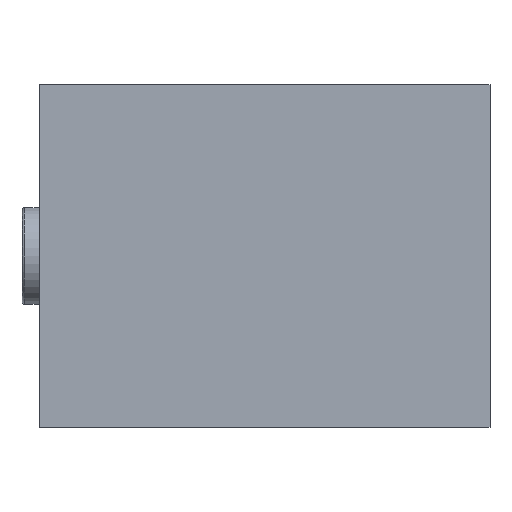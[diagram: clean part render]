
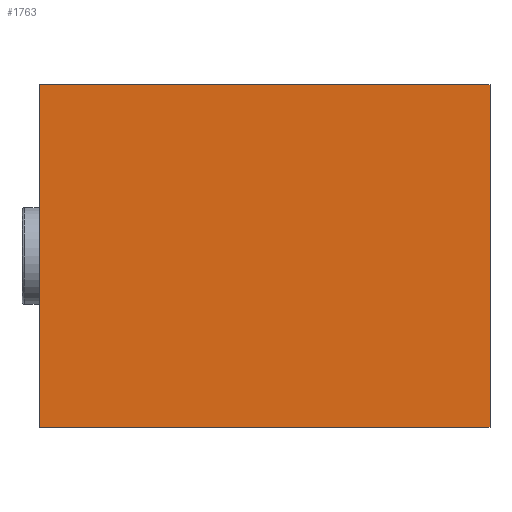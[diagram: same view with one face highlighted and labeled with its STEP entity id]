
A CAD part, front view. The second image highlights one B-rep face of the part: STEP entity #1763.
In plain terms, the highlighted planar face has unit normal (0, -1, 0).
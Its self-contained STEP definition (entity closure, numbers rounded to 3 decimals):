
#12 = CARTESIAN_POINT ( 'NONE',  ( -62.5, 0., 47.5 ) ) ;
#28 = VECTOR ( 'NONE', #1061, 1000. ) ;
#275 = EDGE_CURVE ( 'NONE', #356, #1816, #2254, .T. ) ;
#289 = LINE ( 'NONE', #891, #1561 ) ;
#356 = VERTEX_POINT ( 'NONE', #1462 ) ;
#606 = CARTESIAN_POINT ( 'NONE',  ( -62.5, 0., -47.5 ) ) ;
#640 = EDGE_LOOP ( 'NONE', ( #2923, #2111, #983, #2193 ) ) ;
#850 = EDGE_CURVE ( 'NONE', #2046, #2210, #289, .T. ) ;
#891 = CARTESIAN_POINT ( 'NONE',  ( 62.5, 0., -47.5 ) ) ;
#916 = DIRECTION ( 'NONE',  ( 0., 0., -1. ) ) ;
#983 = ORIENTED_EDGE ( 'NONE', *, *, #275, .F. ) ;
#1061 = DIRECTION ( 'NONE',  ( -1., 0., 0. ) ) ;
#1071 = VECTOR ( 'NONE', #2613, 1000. ) ;
#1087 = CARTESIAN_POINT ( 'NONE',  ( -62.5, 0., 47.5 ) ) ;
#1101 = FACE_OUTER_BOUND ( 'NONE', #640, .T. ) ;
#1450 = CARTESIAN_POINT ( 'NONE',  ( 62.5, 0., 47.5 ) ) ;
#1462 = CARTESIAN_POINT ( 'NONE',  ( -62.5, 0., -47.5 ) ) ;
#1561 = VECTOR ( 'NONE', #916, 1000. ) ;
#1621 = EDGE_CURVE ( 'NONE', #1816, #2046, #1655, .T. ) ;
#1655 = LINE ( 'NONE', #12, #1071 ) ;
#1763 = ADVANCED_FACE ( 'NONE', ( #1101 ), #2014, .F. ) ;
#1816 = VERTEX_POINT ( 'NONE', #1087 ) ;
#2014 = PLANE ( 'NONE',  #3018 ) ;
#2046 = VERTEX_POINT ( 'NONE', #1450 ) ;
#2111 = ORIENTED_EDGE ( 'NONE', *, *, #1621, .F. ) ;
#2193 = ORIENTED_EDGE ( 'NONE', *, *, #2303, .F. ) ;
#2210 = VERTEX_POINT ( 'NONE', #2917 ) ;
#2241 = DIRECTION ( 'NONE',  ( 0., 0., 1. ) ) ;
#2254 = LINE ( 'NONE', #2391, #2774 ) ;
#2303 = EDGE_CURVE ( 'NONE', #2210, #356, #2521, .T. ) ;
#2391 = CARTESIAN_POINT ( 'NONE',  ( -62.5, 0., -47.5 ) ) ;
#2521 = LINE ( 'NONE', #606, #28 ) ;
#2613 = DIRECTION ( 'NONE',  ( 1., 0., 0. ) ) ;
#2642 = DIRECTION ( 'NONE',  ( 0., 0., 1. ) ) ;
#2711 = CARTESIAN_POINT ( 'NONE',  ( 0., 0., 0. ) ) ;
#2774 = VECTOR ( 'NONE', #2642, 1000. ) ;
#2917 = CARTESIAN_POINT ( 'NONE',  ( 62.5, 0., -47.5 ) ) ;
#2923 = ORIENTED_EDGE ( 'NONE', *, *, #850, .F. ) ;
#2943 = DIRECTION ( 'NONE',  ( 0., 1., 0. ) ) ;
#3018 = AXIS2_PLACEMENT_3D ( 'NONE', #2711, #2943, #2241 ) ;
